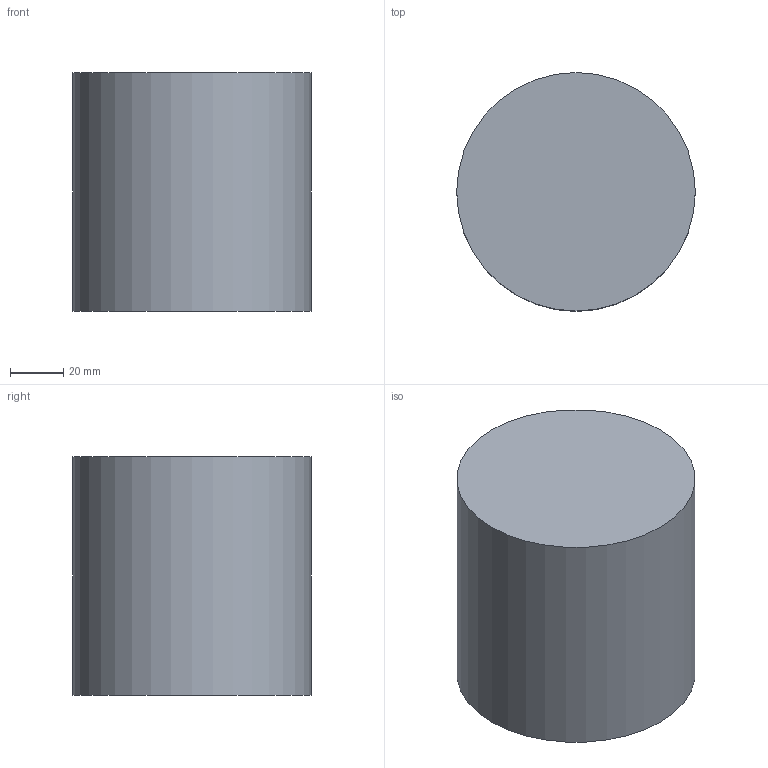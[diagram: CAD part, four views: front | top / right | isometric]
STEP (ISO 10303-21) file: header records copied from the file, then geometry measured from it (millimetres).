
FILE_DESCRIPTION(('Open CASCADE Model'),'2;1');
FILE_NAME('Open CASCADE Shape Model','2026-10-10T15:34:57',('Author'),( 'Open CASCADE'),'Open CASCADE STEP processor 7.9','Open CASCADE 7.9' ,'Unknown');
FILE_SCHEMA(('AUTOMOTIVE_DESIGN { 1 0 10303 214 1 1 1 1 }'));
Length unit declared in the file: millimetre
Products named in the file (1): Open CASCADE STEP translator 7.9 15
Bounding box: 90 x 90 x 90 mm (x, y, z)
Volume: 572555.3 mm3; surface area: 38170.4 mm2
Topology: 1 solids, 1 shells, 3 faces, 3 edges, 2 vertices
Faces by surface type: plane 2, cylinder 1
Full cylindrical faces by diameter (mm): 90 x1
Entity records: 108 total; most frequent: DIRECTION 19, CARTESIAN_POINT 15, AXIS2_PLACEMENT_3D 6, ORIENTED_EDGE 6, PCURVE 6, DEFINITIONAL_REPRESENTATION 6, LINE 5, VECTOR 5
